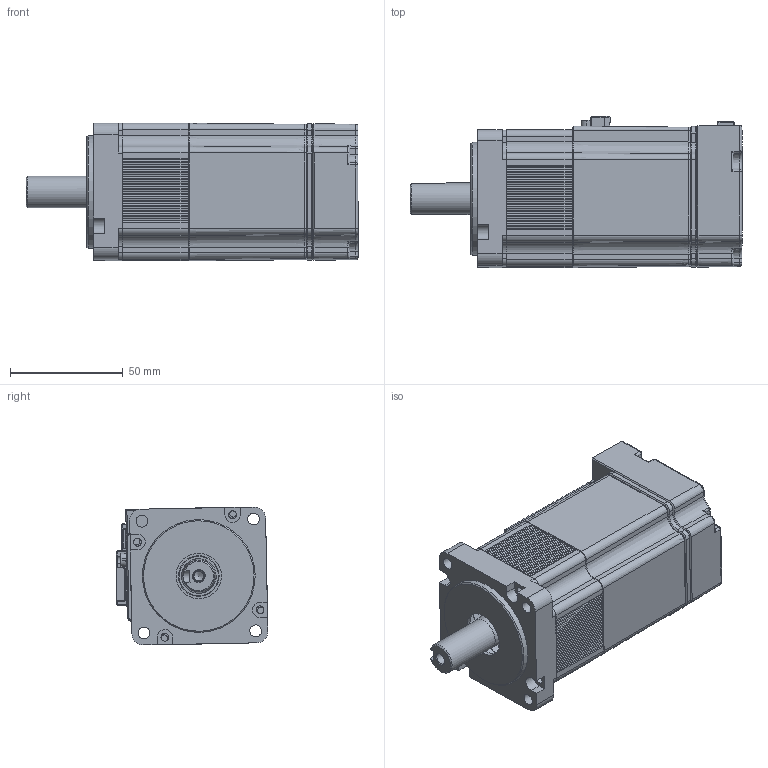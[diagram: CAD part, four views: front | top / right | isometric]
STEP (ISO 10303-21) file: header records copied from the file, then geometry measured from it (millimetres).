
FILE_DESCRIPTION (( 'STEP AP203' ), '1' );
FILE_NAME ('60-200W BRAKE ASS''Y(棻檜議蝶た 瞳辨)_REV01.STEP', '2024-09-12T05:59:44', ( '' ), ( '' ), 'SwSTEP 2.0', 'SolidWorks 2023', '' );
FILE_SCHEMA (( 'CONFIG_CONTROL_DESIGN' ));
Length unit declared in the file: millimetre
Products named in the file (10): □60-200,400W BRACKET(BRAKE)_다이캐스팅 가공도; 60-200W BRAKE ASS''Y(다이캐스팅 적용)_REV01; 60-200W 야스카와 베어링 변경 플랜지; □60-200W BRAKE SHAFT(세메스); □60-200W ST ASS''Y; □60 ENCODER COVER_다이캐스팅 가공도; ENCODER Receptacle; 50160686(□60 ADAPTOR); POWER RECEPTACLE; □60-200W BRAKE FRAME
Assembly tree (9 placements, depth 2):
  60-200W BRAKE ASS''Y(다이캐스팅 적용)_REV01
    □60-200W ST ASS''Y
    ENCODER Receptacle
    POWER RECEPTACLE
    □60 ENCODER COVER_다이캐스팅 가공도
    □60-200W BRAKE FRAME
    □60-200,400W BRACKET(BRAKE)_다이캐스팅 가공도
    □60-200W BRAKE SHAFT(세메스)
    60-200W 야스카와 베어링 변경 플랜지
    50160686(□60 ADAPTOR)
Bounding box: 147.1 x 67.14 x 61.14 mm (x, y, z)
Volume: 163103.8 mm3; surface area: 94656.2 mm2
Topology: 9 solids, 15 shells, 2230 faces, 5806 edges, 3677 vertices
Faces by surface type: plane 1162, cylinder 655, bspline 193, cone 143, torus 53, sphere 24
Full cylindrical faces by diameter (mm): 1.93 x1, 2 x9, 2.6 x2, 3 x13, 3.2 x1, 3.5 x8, 4 x1, 4.25 x1, 4.3 x4, 5 x1, 14 x1, 14.8 x1, 15 x1, 17 x1, 18 x1, 20.103 x1, 26 x1, 36.5 x1, 37 x1, 40.103 x1, 48.6 x1, 49 x1, 49.2 x1, 49.9 x1, 50 x1, 50.2 x1, 51.8 x1, 56.6 x2, 56.703 x1
Entity records: 72657 total; most frequent: CARTESIAN_POINT 17990, ORIENTED_EDGE 11364, DIRECTION 10859, EDGE_CURVE 5682, AXIS2_PLACEMENT_3D 3664, VERTEX_POINT 3662, LINE 3531, VECTOR 3531
